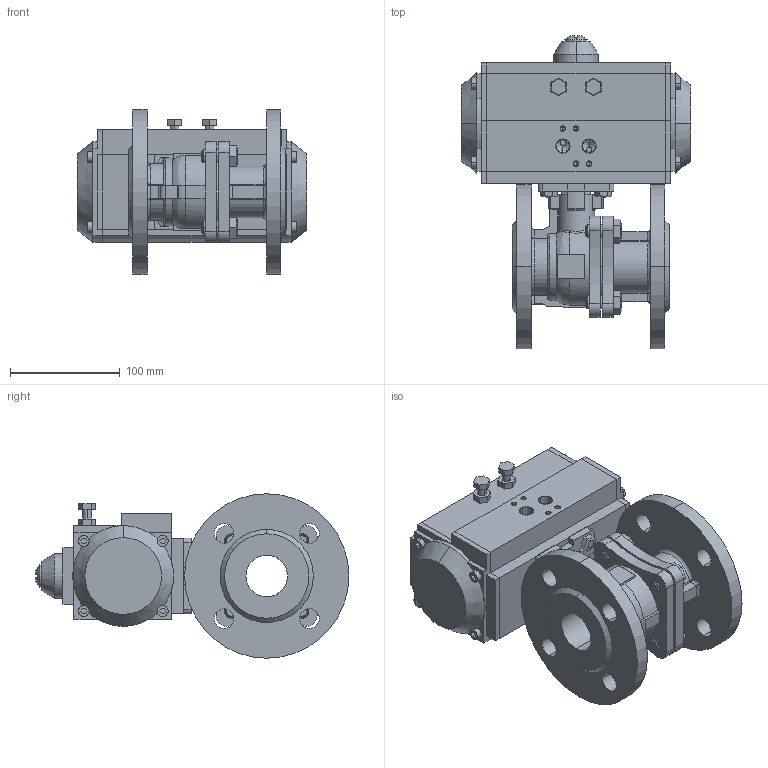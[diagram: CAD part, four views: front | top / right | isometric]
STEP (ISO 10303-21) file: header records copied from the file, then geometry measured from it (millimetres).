
FILE_DESCRIPTION((''),'2;1');
FILE_NAME('BV-22F_RPA_ASM','2024-09-11T',('USER'),(''),'PRO/ENGINEER BY PARAMETRIC TECHNOLOGY CORPORATION, 2011220','PRO/ENGINEER BY PARAMETRIC TECHNOLOGY CORPORATION, 2011220','');
FILE_SCHEMA(('CONFIG_CONTROL_DESIGN'));
Length unit declared in the file: millimetre
Products named in the file (12): KORPUS_KRAN_FL; B-7798-M12-25; SB_KRAN_FL_ASM; KORPUS_PNEVMOPRIVOD; KOLCO_18_GOST13942; KRISKA_VERX; VINT; KRISKA_LEFT; KRISKA_RIGHT; SB_PNEVMOPRIVOD_ASM; B-7798-M8-16; BV-22F_RPA_ASM
Assembly tree (17 placements, depth 3):
  BV-22F_RPA_ASM
    SB_KRAN_FL_ASM
      KORPUS_KRAN_FL
      B-7798-M12-25  x4
    SB_PNEVMOPRIVOD_ASM
      KORPUS_PNEVMOPRIVOD
      KOLCO_18_GOST13942
      KRISKA_VERX
      VINT
      KRISKA_LEFT
      KRISKA_RIGHT
    B-7798-M8-16  x4
Bounding box: 209 x 286.43 x 150 mm (x, y, z)
Volume: 2681301.4 mm3; surface area: 332532.5 mm2
Topology: 15 solids, 49 shells, 841 faces, 2169 edges, 1392 vertices
Faces by surface type: plane 420, cylinder 287, cone 82, torus 27, bspline 21, extrusion 2, sphere 2
Entity records: 24195 total; most frequent: CARTESIAN_POINT 5670, DIRECTION 3933, ORIENTED_EDGE 3642, EDGE_CURVE 1879, AXIS2_PLACEMENT_3D 1411, VERTEX_POINT 1236, VECTOR 1111, LINE 1109
